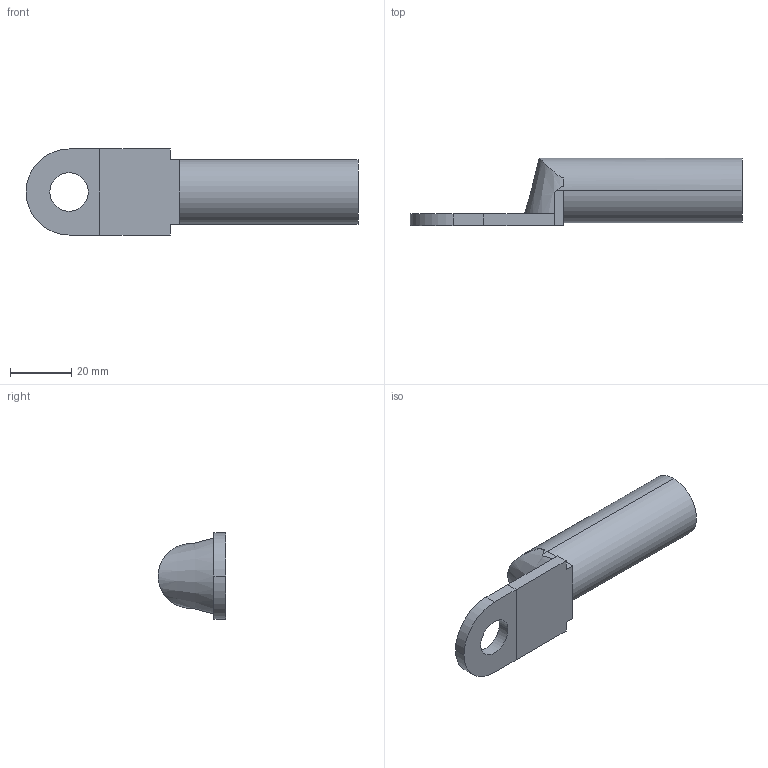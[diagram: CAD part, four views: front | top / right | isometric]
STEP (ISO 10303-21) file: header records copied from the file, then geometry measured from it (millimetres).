
FILE_DESCRIPTION (( 'STEP AP214' ), '1' );
FILE_NAME ('OptiKit L-DTL 95-12.STEP', '2020-04-24T12:49:46', ( '' ), ( '' ), 'SwSTEP 2.0', 'SolidWorks 2018', '' );
FILE_SCHEMA (( 'AUTOMOTIVE_DESIGN' ));
Length unit declared in the file: millimetre
Products named in the file (3): 极噉 95-12; DTL-95-12; OptiKit L-DTL 95-12
Assembly tree (2 placements, depth 2):
  OptiKit L-DTL 95-12
    DTL-95-12
    极噉 95-12
Bounding box: 108 x 22 x 28 mm (x, y, z)
Volume: 19311.2 mm3; surface area: 10344.6 mm2
Topology: 2 solids, 2 shells, 28 faces, 67 edges, 44 vertices
Faces by surface type: plane 19, cylinder 8, cone 1
Entity records: 1002 total; most frequent: CARTESIAN_POINT 233, DIRECTION 144, ORIENTED_EDGE 134, EDGE_CURVE 67, AXIS2_PLACEMENT_3D 51, VERTEX_POINT 44, LINE 42, VECTOR 42
